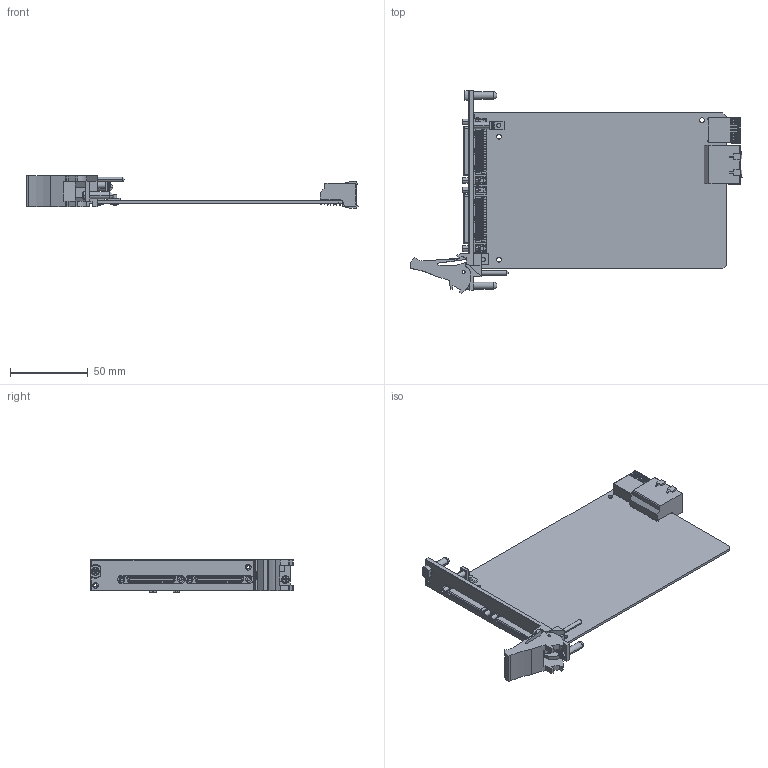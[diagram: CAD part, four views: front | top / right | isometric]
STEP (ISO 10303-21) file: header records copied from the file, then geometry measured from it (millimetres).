
FILE_DESCRIPTION((''),'2;1');
FILE_NAME('CU_PXIE-6739','2015-07-01T',('dkendric'),(''),'PRO/ENGINEER BY PARAMETRIC TECHNOLOGY CORPORATION, 2014000','PRO/ENGINEER BY PARAMETRIC TECHNOLOGY CORPORATION, 2014000','');
FILE_SCHEMA(('CONFIG_CONTROL_DESIGN'));
Products named in the file (1): CU_PXIE-6739
Bounding box: 213.82 x 130.5 x 20.78 mm (x, y, z)
Volume: 52839.1 mm3; surface area: 55316.3 mm2
Topology: 1 solids, 4 shells, 6578 faces, 17413 edges, 11452 vertices
Faces by surface type: plane 5364, cylinder 1136, bspline 28, cone 26, sphere 18, torus 6
Entity records: 205434 total; most frequent: CARTESIAN_POINT 40652, ORIENTED_EDGE 34762, DIRECTION 31979, EDGE_CURVE 17381, VECTOR 13925, LINE 13925, VERTEX_POINT 11471, AXIS2_PLACEMENT_3D 9027
